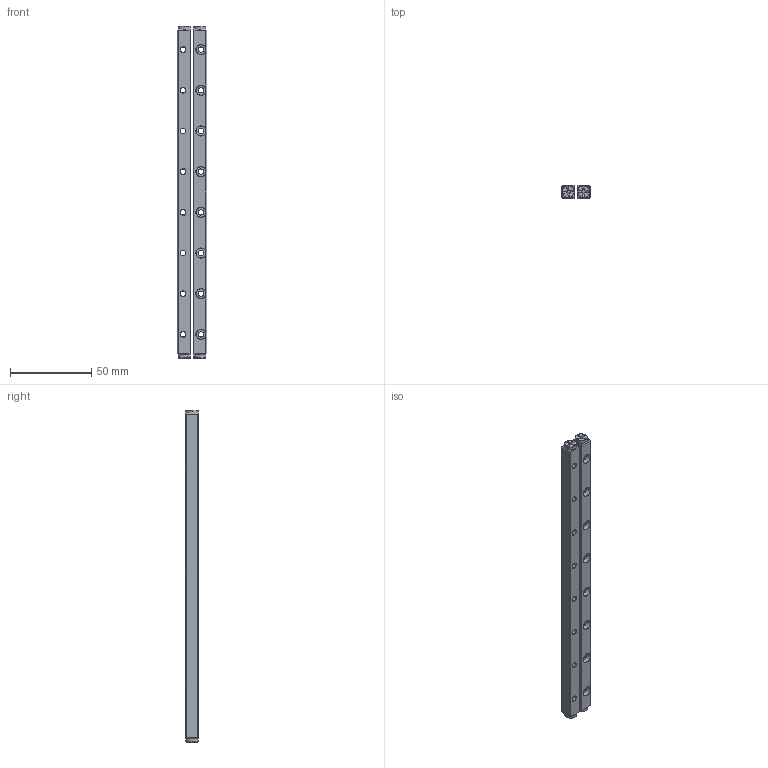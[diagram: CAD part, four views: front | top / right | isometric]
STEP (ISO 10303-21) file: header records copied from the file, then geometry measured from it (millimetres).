
FILE_DESCRIPTION (( 'STEP AP203' ), '1' );
FILE_NAME ('NV3-200（客用）.STEP', '2018-11-05T07:59:07', ( '微软用户' ), ( '微软中国' ), 'SwSTEP 2.0', 'SolidWorks 2017', '' );
FILE_SCHEMA (( 'CONFIG_CONTROL_DESIGN' ));
Length unit declared in the file: millimetre
Products named in the file (1): NV3-200ㄗ諦蚚ㄘ
Bounding box: 18 x 8 x 204 mm (x, y, z)
Volume: 23554.2 mm3; surface area: 16098.9 mm2
Topology: 6 solids, 6 shells, 348 faces, 872 edges, 540 vertices
Faces by surface type: plane 148, cylinder 104, cone 80, torus 16
Entity records: 10471 total; most frequent: DIRECTION 1906, CARTESIAN_POINT 1801, ORIENTED_EDGE 1728, EDGE_CURVE 864, AXIS2_PLACEMENT_3D 709, VERTEX_POINT 540, LINE 488, VECTOR 488
